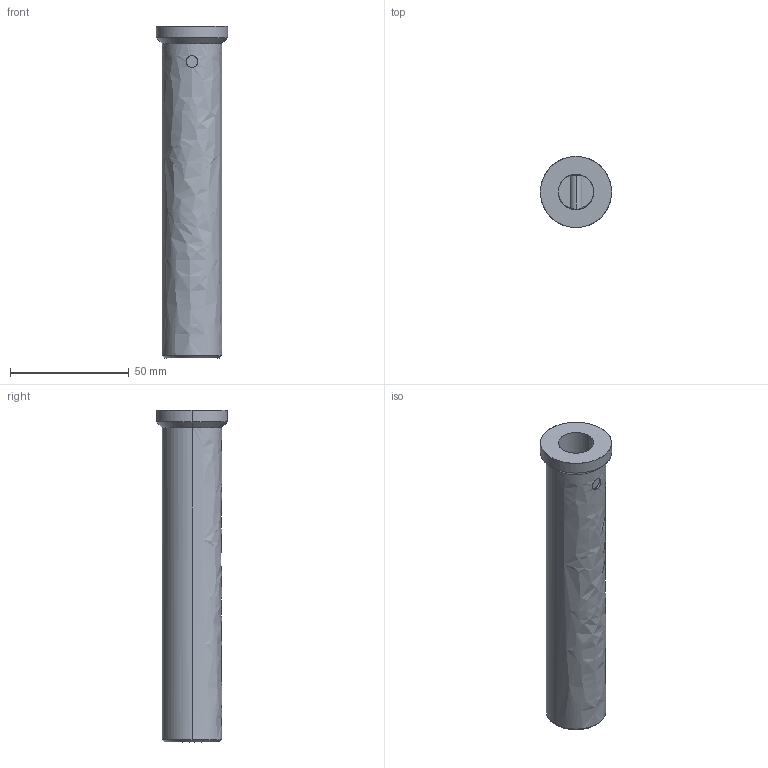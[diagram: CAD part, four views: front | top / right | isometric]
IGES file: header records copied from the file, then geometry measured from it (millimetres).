
Global section: file name: E:\UnigraphicsGraphicData\MISUMI_PRESS-PARTS\IGES\3d_lcup25-140_01345_r00.igs; native system: NX V5.0; preprocessor: UGS NX IGES V5.0; author: MISUMI; date: 20110105.161156; units: millimetre
Bounding box: 30 x 30 x 140 mm (x, y, z)
Surface area: 14119 mm2 (no closed solid volume)
Topology: 0 solids, 0 shells, 19 faces, 140 edges, 140 vertices
Faces by surface type: bspline 19
